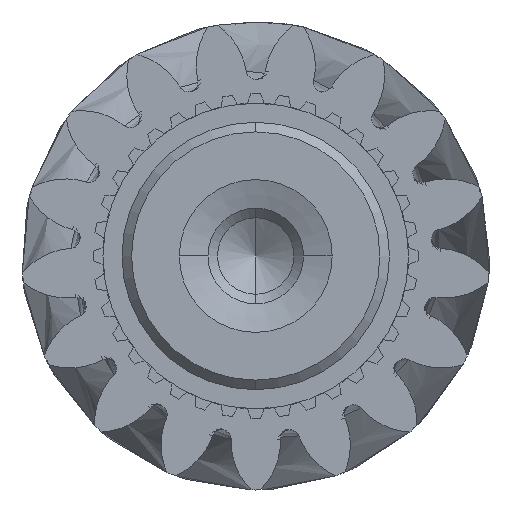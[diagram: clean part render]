
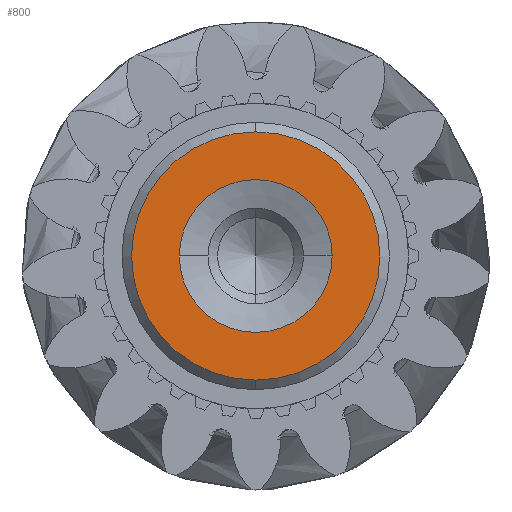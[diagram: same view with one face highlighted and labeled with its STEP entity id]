
A CAD part, left-side view. The second image highlights one B-rep face of the part: STEP entity #800.
In plain terms, the highlighted planar face has unit normal (-1, 0, 0).
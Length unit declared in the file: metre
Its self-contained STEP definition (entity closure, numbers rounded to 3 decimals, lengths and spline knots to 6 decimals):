
#800=ADVANCED_FACE('0:6560',(#2271,#2272),#2273,.T.);
#2271=FACE_OUTER_BOUND('',#6653,.T.);
#2272=FACE_BOUND('',#6654,.T.);
#2273=PLANE('',#6655);
#6653=EDGE_LOOP('',(#12220,#12221));
#6654=EDGE_LOOP('',(#12222,#12223));
#6655=AXIS2_PLACEMENT_3D('',#12224,#12225,#12226);
#12220=ORIENTED_EDGE('',*,*,#15522,.F.);
#12221=ORIENTED_EDGE('',*,*,#15283,.F.);
#12222=ORIENTED_EDGE('',*,*,#15374,.T.);
#12223=ORIENTED_EDGE('',*,*,#15441,.T.);
#12224=CARTESIAN_POINT('',(-0.2435,0.,0.007));
#12225=DIRECTION('',(-1.0,0.,0.0));
#12226=DIRECTION('',(0.0,0.0,1.0));
#15283=EDGE_CURVE('0:7723',#18411,#18413,#18414,.T.);
#15374=EDGE_CURVE('0:7447',#18592,#18590,#18593,.T.);
#15441=EDGE_CURVE('0:7447',#18590,#18592,#18703,.T.);
#15522=EDGE_CURVE('0:7723',#18413,#18411,#18856,.T.);
#18411=VERTEX_POINT('',#24704);
#18413=VERTEX_POINT('',#24707);
#18414=CIRCLE('',#24708,0.013);
#18590=VERTEX_POINT('',#24929);
#18592=VERTEX_POINT('',#24932);
#18593=CIRCLE('',#24933,0.008);
#18703=CIRCLE('',#25067,0.008);
#18856=CIRCLE('',#25256,0.013);
#24704=CARTESIAN_POINT('',(-0.2435,0.,-0.013));
#24707=CARTESIAN_POINT('',(-0.2435,0.,0.013));
#24708=AXIS2_PLACEMENT_3D('',#29398,#29399,#29400);
#24929=CARTESIAN_POINT('',(-0.2435,-0.008,0.));
#24932=CARTESIAN_POINT('',(-0.2435,0.008,0.));
#24933=AXIS2_PLACEMENT_3D('',#29579,#29580,#29581);
#25067=AXIS2_PLACEMENT_3D('',#29732,#29733,#29734);
#25256=AXIS2_PLACEMENT_3D('',#29903,#29904,#29905);
#29398=CARTESIAN_POINT('',(-0.2435,0.,0.));
#29399=DIRECTION('',(1.0,0.,0.0));
#29400=DIRECTION('',(0.0,0.0,-1.0));
#29579=CARTESIAN_POINT('',(-0.2435,0.,0.));
#29580=DIRECTION('',(1.0,0.,0.0));
#29581=DIRECTION('',(0.,-1.0,0.0));
#29732=CARTESIAN_POINT('',(-0.2435,0.,0.));
#29733=DIRECTION('',(1.0,0.,0.0));
#29734=DIRECTION('',(0.,-1.0,0.0));
#29903=CARTESIAN_POINT('',(-0.2435,0.,0.));
#29904=DIRECTION('',(1.0,0.,0.0));
#29905=DIRECTION('',(0.0,0.0,-1.0));
